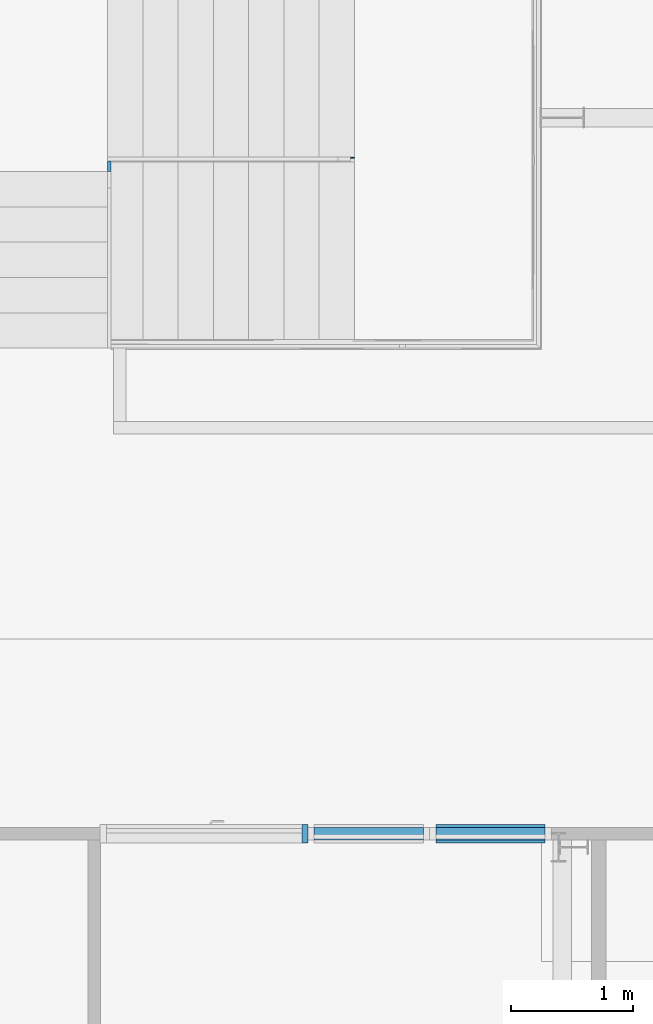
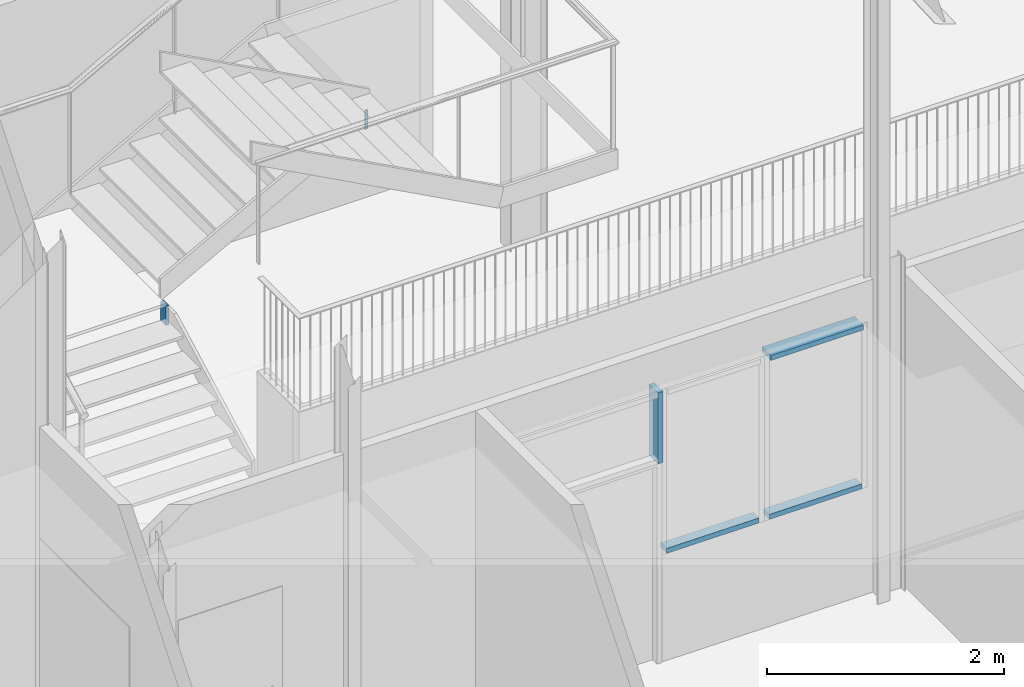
# One storey, part 21 of 137: 6 members, 4 elements without a shape of their own.
"""IFC2X3 building model written with IfcOpenShell, lengths in centimetres."""

from ifc_helpers import new_model, entity, si_unit, converted_unit, derived_unit, direction, frame, frame_2d, origin, place, context, subcontext, project, spatial, polyline, rectangle, outline, extrude, material, type_object, element, aggregate, save


model = new_model("IFC2X3")

# Units and contexts
model_context = context("Model", 3, precision=0.001, world=origin(), true_north=direction((6.12303176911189e-17, 1.0)))
body_context = subcontext(model_context, "Body", "Model", "MODEL_VIEW")
ifc_project = project(units=[si_unit("LENGTHUNIT", "METRE", prefix="CENTI"), si_unit("AREAUNIT", "SQUARE_METRE"), si_unit("VOLUMEUNIT", "CUBIC_METRE"), converted_unit("PLANEANGLEUNIT", "DEGREE", entity("IfcRatioMeasure", 0.0174532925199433), si_unit("PLANEANGLEUNIT", "RADIAN"), dimensions=[0, 0, 0, 0, 0, 0, 0]), si_unit("MASSUNIT", "GRAM", prefix="KILO"), si_unit("TIMEUNIT", "SECOND"), si_unit("FREQUENCYUNIT", "HERTZ"), si_unit("THERMODYNAMICTEMPERATUREUNIT", "DEGREE_CELSIUS"), derived_unit("THERMALTRANSMITTANCEUNIT", [(si_unit("MASSUNIT", "GRAM", prefix="KILO"), 1), (si_unit("THERMODYNAMICTEMPERATUREUNIT", "KELVIN"), -1), (si_unit("TIMEUNIT", "SECOND"), -3)]), derived_unit("VOLUMETRICFLOWRATEUNIT", [(si_unit("LENGTHUNIT", "METRE"), 3), (si_unit("TIMEUNIT", "SECOND"), -1)]), si_unit("ELECTRICCURRENTUNIT", "AMPERE"), si_unit("ELECTRICVOLTAGEUNIT", "VOLT"), si_unit("POWERUNIT", "WATT"), si_unit("FORCEUNIT", "NEWTON", prefix="KILO"), si_unit("ILLUMINANCEUNIT", "LUX"), si_unit("LUMINOUSFLUXUNIT", "LUMEN"), si_unit("LUMINOUSINTENSITYUNIT", "CANDELA"), derived_unit("USERDEFINED", [(si_unit("MASSUNIT", "GRAM", prefix="KILO"), -1), (si_unit("LENGTHUNIT", "METRE"), -2), (si_unit("TIMEUNIT", "SECOND"), 3), (si_unit("LUMINOUSFLUXUNIT", "LUMEN"), 1)]), derived_unit("LINEARVELOCITYUNIT", [(si_unit("LENGTHUNIT", "METRE"), 1), (si_unit("TIMEUNIT", "SECOND"), -1)]), si_unit("PRESSUREUNIT", "PASCAL"), derived_unit("USERDEFINED", [(si_unit("LENGTHUNIT", "METRE"), -2), (si_unit("MASSUNIT", "GRAM", prefix="KILO"), 1), (si_unit("TIMEUNIT", "SECOND"), -2)])], contexts=[model_context])

# Site, building, storey
site_placement = place(None, frame((8.62739174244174, -249.285249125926, 0.0)))
site = spatial("IfcSite", under=ifc_project, at=site_placement, Name="Default", CompositionType="ELEMENT")
building_placement = place(site_placement, origin())
building = spatial("IfcBuilding", under=site, at=building_placement, CompositionType="ELEMENT")
storey_placement = place(building_placement, origin())
storey = spatial("IfcBuildingStorey", under=building, at=storey_placement, Name="RDC", CompositionType="ELEMENT", Elevation=-8.82465566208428e-11)

# Stair, members
stair_placement = place(storey_placement, origin())
stair = element("IfcStair", 1, at=stair_placement, inside=storey, Name="Escalier assemblé:Escalier", ObjectType="Escalier assemblé:Escalier métallique", ShapeType="NOTDEFINED")
ifc_material_1 = material(Name="Acier, 45-345")
member_type = type_object("IfcMemberType", Name="Limon à la française:Limon à la française - 30 mm", PredefinedType="STRINGER")
member_1_placement = place(stair_placement, origin())
member_1 = element("IfcMember", 2, at=member_1_placement, type_object=member_type, material=ifc_material_1, Name="Escalier assemblé:Escalier:1434872 Stringer 12", ObjectType="Escalier assemblé:Escalier métallique", context=body_context, shape_type="SweptSolid", body=[
    extrude(rectangle(XDim=0.999999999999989, YDim=2.99999999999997, at=frame_2d((1.08302256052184e-13, -1.08357767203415e-13), x_axis=(1.0, 0.0))), frame((1391.40482780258, 1329.00020806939, 195.272727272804), z_axis=(0.0, 0.0, 1.0), x_axis=(0.0, -1.0, 0.0)), (0.0, 0.0, 1.0), 20.0),
])
member_2_placement = place(stair_placement, origin())
member_2 = element("IfcMember", 3, at=member_2_placement, type_object=member_type, material=ifc_material_1, Name="Escalier assemblé:Escalier:1434872 Stringer 13", ObjectType="Escalier assemblé:Escalier métallique", context=body_context, shape_type="SweptSolid", body=[
    extrude(outline(polyline([(-4.50620589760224, -1.49999999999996), (4.49387018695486, -1.49999999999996), (4.50620589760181, 1.50000000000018), (-4.49387018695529, 1.49999999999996), (-4.50620589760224, -1.49999999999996)])), frame((1191.43567975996, 1322.00020806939, 70.5454545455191), z_axis=(0.0, 0.0, 1.0), x_axis=(-0.00411186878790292, 0.999991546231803, 0.0)), (0.0, 0.0, 1.0), 20.0),
])
aggregate(stair, [member_1, member_2])

# Curtain wall, members
curtain_wall_type = type_object("IfcCurtainWallType", Name="Mur-rideau:Simple panneau", PredefinedType="NOTDEFINED")
curtain_wall_1_placement = place(storey_placement, origin())
curtain_wall_1 = element("IfcCurtainWall", 4, at=curtain_wall_1_placement, inside=storey, type_object=curtain_wall_type, Name="Mur-rideau:Simple panneau", ObjectType="Mur-rideau:Simple panneau")
ifc_material_2 = material(Name="Plastique, blanc opaque")
member_3_placement = place(curtain_wall_1_placement, origin())
member_3 = element("IfcMember", 5, at=member_3_placement, material=ifc_material_2, Name="Mur-rideau:Simple panneau:661", ObjectType="Mur-rideau:Simple panneau:661", context=body_context, shape_type="SweptSolid", body=[
    extrude(rectangle(XDim=5.0, YDim=15.0000000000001, at=frame_2d((2.70894418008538e-14, 2.92388335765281e-12), x_axis=(1.0, 0.0))), frame((1459.90482780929, 773.0, 277.500000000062), z_axis=(1.0, 0.0, 0.0), x_axis=(0.0, 0.0, -1.0)), (0.0, 0.0, 1.0), 90.0000000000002),
])
member_4_placement = place(curtain_wall_1_placement, origin())
member_4 = element("IfcMember", 6, at=member_4_placement, material=ifc_material_2, Name="Mur-rideau:Simple panneau", ObjectType="Mur-rideau:Simple panneau", context=body_context, shape_type="SweptSolid", body=[
    extrude(rectangle(XDim=5.0, YDim=10.0, at=frame_2d((0.0, 2.97761815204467e-12), x_axis=(1.0, 0.0))), frame((1549.90482780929, 773.0, 112.500000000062), z_axis=(-1.0, 0.0, 0.0), x_axis=(0.0, 0.0, -1.0)), (0.0, 0.0, 1.0), 90.0),
])
aggregate(curtain_wall_1, [member_3, member_4])

# Curtain wall, member
curtain_wall_2_placement = place(storey_placement, origin())
curtain_wall_2 = element("IfcCurtainWall", 7, at=curtain_wall_2_placement, inside=storey, type_object=curtain_wall_type, Name="Mur-rideau:Simple panneau", ObjectType="Mur-rideau:Simple panneau")
member_5_placement = place(curtain_wall_2_placement, origin())
member_5 = element("IfcMember", 8, at=member_5_placement, material=ifc_material_2, Name="Mur-rideau:Simple panneau", ObjectType="Mur-rideau:Simple panneau", context=body_context, shape_type="SweptSolid", body=[
    extrude(rectangle(XDim=5.0, YDim=10.0, at=frame_2d((0.0, 2.97761815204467e-12), x_axis=(1.0, 0.0))), frame((1449.90482780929, 773.0, 112.500000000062), z_axis=(-1.0, 0.0, 0.0), x_axis=(0.0, 0.0, -1.0)), (0.0, 0.0, 1.0), 90.0),
])
aggregate(curtain_wall_2, [member_5])

curtain_wall_3_placement = place(storey_placement, origin())
curtain_wall_3 = element("IfcCurtainWall", 9, at=curtain_wall_3_placement, inside=storey, type_object=curtain_wall_type, Name="Mur-rideau:Simple panneau", ObjectType="Mur-rideau:Simple panneau")
member_6_placement = place(curtain_wall_3_placement, origin())
member_6 = element("IfcMember", 10, at=member_6_placement, material=ifc_material_2, Name="Mur-rideau:Simple panneau:661", ObjectType="Mur-rideau:Simple panneau:661", context=body_context, shape_type="SweptSolid", body=[
    extrude(rectangle(XDim=4.99999999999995, YDim=15.0000000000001, at=frame_2d((1.08357767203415e-13, -1.08357767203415e-13), x_axis=(1.0, 0.0))), frame((1352.40482780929, 773.0, 207.0), z_axis=(0.0, 0.0, 1.0), x_axis=(-1.0, 0.0, 0.0)), (0.0, 0.0, 1.0), 72.9999999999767),
])
aggregate(curtain_wall_3, [member_6])

save(model, "model.ifc")
